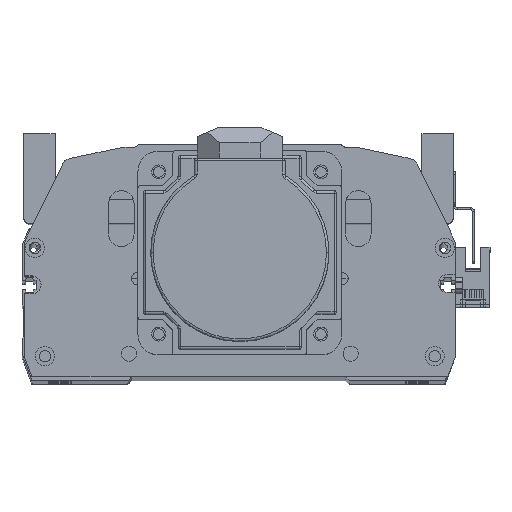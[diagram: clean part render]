
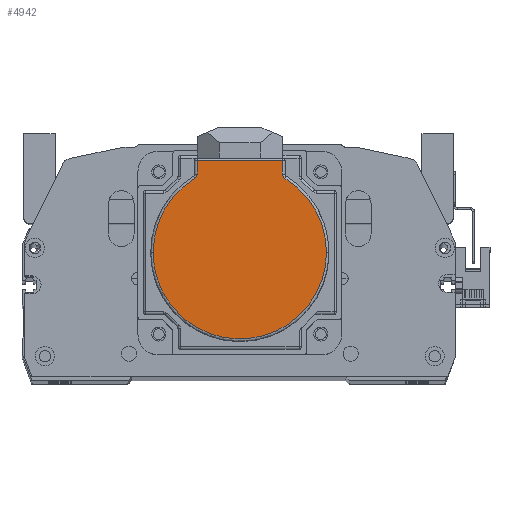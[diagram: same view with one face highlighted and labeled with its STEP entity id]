
A CAD part, top view. The second image highlights one B-rep face of the part: STEP entity #4942.
In plain terms, the highlighted planar face has unit normal (0, 0, 1) as drawn and (0, 0, -1) by its records, which use the part's own axes.
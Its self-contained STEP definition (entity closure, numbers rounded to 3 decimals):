
#281 = CARTESIAN_POINT ( 'NONE',  ( 34., 0., -143.5 ) ) ;
#3046 = CARTESIAN_POINT ( 'NONE',  ( -16.836, 30.15, -143.5 ) ) ;
#3869 = CARTESIAN_POINT ( 'NONE',  ( 16.75, 30.647, -143.5 ) ) ;
#4142 = ORIENTED_EDGE ( 'NONE', *, *, #12443, .F. ) ;
#4942 = ADVANCED_FACE ( 'NONE', ( #46643 ), #28446, .T. ) ;
#5293 = VERTEX_POINT ( 'NONE', #17669 ) ;
#5727 =( BOUNDED_CURVE ( )  B_SPLINE_CURVE ( 3, ( #32121, #6694, #21308, #46227 ),
 .UNSPECIFIED., .F., .T. ) 
 B_SPLINE_CURVE_WITH_KNOTS ( ( 4, 4 ),
 ( 0., 1. ),
 .UNSPECIFIED. ) 
 CURVE ( )  GEOMETRIC_REPRESENTATION_ITEM ( )  RATIONAL_B_SPLINE_CURVE ( ( 1., 0.915, 0.915, 1. ) ) 
 REPRESENTATION_ITEM ( '' )  );
#6533 = CARTESIAN_POINT ( 'NONE',  ( 17.119, 29.568, -143.5 ) ) ;
#6628 = CARTESIAN_POINT ( 'NONE',  ( -16.863, 30.068, -143.5 ) ) ;
#6694 = CARTESIAN_POINT ( 'NONE',  ( -28.063, 22.707, -143.5 ) ) ;
#6863 = CARTESIAN_POINT ( 'NONE',  ( -17.195, 29.462, -143.5 ) ) ;
#7009 = CARTESIAN_POINT ( 'NONE',  ( 17.708, 29.024, -143.5 ) ) ;
#7183 = CARTESIAN_POINT ( 'NONE',  ( 34., 12.13, -143.5 ) ) ;
#7232 = CARTESIAN_POINT ( 'NONE',  ( 17.564, 29.113, -143.5 ) ) ;
#7488 = B_SPLINE_CURVE_WITH_KNOTS ( 'NONE', 3,
 ( #27978, #39017, #9761, #35892, #13809, #32060, #6863, #24385, #28462, #39489, #6628, #3046, #16704, #28691, #17654, #32298 ),
 .UNSPECIFIED., .F., .F.,
 ( 4, 1, 2, 2, 2, 1, 2, 2, 4 ),
 ( 0., 0.125, 0.187, 0.25, 0.5, 0.625, 0.687, 0.75, 1. ),
 .UNSPECIFIED. ) ;
#7951 = VERTEX_POINT ( 'NONE', #42199 ) ;
#9761 = CARTESIAN_POINT ( 'NONE',  ( -17.533, 29.14, -143.5 ) ) ;
#10624 = CARTESIAN_POINT ( 'NONE',  ( 16.758, 30.522, -143.5 ) ) ;
#10926 =( BOUNDED_CURVE ( )  B_SPLINE_CURVE ( 3, ( #14447, #7183, #39339, #31911 ),
 .UNSPECIFIED., .F., .F. ) 
 B_SPLINE_CURVE_WITH_KNOTS ( ( 4, 4 ),
 ( 0., 1. ),
 .UNSPECIFIED. ) 
 CURVE ( )  GEOMETRIC_REPRESENTATION_ITEM ( )  RATIONAL_B_SPLINE_CURVE ( ( 1., 0.915, 0.915, 1. ) ) 
 REPRESENTATION_ITEM ( '' )  );
#11080 = CARTESIAN_POINT ( 'NONE',  ( 17.2, 29.467, -143.5 ) ) ;
#12443 = EDGE_CURVE ( 'NONE', #35800, #5293, #21722, .T. ) ;
#12704 = VECTOR ( 'NONE', #25352, 1000. ) ;
#12809 = LINE ( 'NONE', #27450, #27426 ) ;
#13174 = ORIENTED_EDGE ( 'NONE', *, *, #26693, .T. ) ;
#13685 =( BOUNDED_CURVE ( )  B_SPLINE_CURVE ( 3, ( #15123, #38344, #29780, #281 ),
 .UNSPECIFIED., .F., .F. ) 
 B_SPLINE_CURVE_WITH_KNOTS ( ( 4, 4 ),
 ( 0., 1. ),
 .UNSPECIFIED. ) 
 CURVE ( )  GEOMETRIC_REPRESENTATION_ITEM ( )  RATIONAL_B_SPLINE_CURVE ( ( 1., 0.333, 0.333, 1. ) ) 
 REPRESENTATION_ITEM ( '' )  );
#13809 = CARTESIAN_POINT ( 'NONE',  ( -17.376, 29.278, -143.5 ) ) ;
#14412 = ORIENTED_EDGE ( 'NONE', *, *, #25136, .T. ) ;
#14447 = CARTESIAN_POINT ( 'NONE',  ( 34., 0., -143.5 ) ) ;
#15123 = CARTESIAN_POINT ( 'NONE',  ( -34., 0., -143.5 ) ) ;
#15877 = CARTESIAN_POINT ( 'NONE',  ( 34., 0., -143.5 ) ) ;
#16123 = EDGE_CURVE ( 'NONE', #23050, #43658, #5727, .T. ) ;
#16704 = CARTESIAN_POINT ( 'NONE',  ( -16.823, 30.193, -143.5 ) ) ;
#16987 = LINE ( 'NONE', #35223, #27912 ) ;
#17654 = CARTESIAN_POINT ( 'NONE',  ( -16.75, 30.563, -143.5 ) ) ;
#17669 = CARTESIAN_POINT ( 'NONE',  ( 16.75, 36., -143.5 ) ) ;
#17801 = CARTESIAN_POINT ( 'NONE',  ( 16.793, 30.316, -143.5 ) ) ;
#18618 = CARTESIAN_POINT ( 'NONE',  ( -16.75, 30.732, -143.5 ) ) ;
#20696 = CARTESIAN_POINT ( 'NONE',  ( 16.75, 30.732, -143.5 ) ) ;
#21147 = CARTESIAN_POINT ( 'NONE',  ( 17.433, 29.217, -143.5 ) ) ;
#21308 = CARTESIAN_POINT ( 'NONE',  ( -34., 12.13, -143.5 ) ) ;
#21620 = CARTESIAN_POINT ( 'NONE',  ( 17.287, 29.367, -143.5 ) ) ;
#21722 = LINE ( 'NONE', #35663, #12704 ) ;
#23048 = VERTEX_POINT ( 'NONE', #15877 ) ;
#23050 = VERTEX_POINT ( 'NONE', #42750 ) ;
#23684 = ORIENTED_EDGE ( 'NONE', *, *, #16123, .F. ) ;
#24385 = CARTESIAN_POINT ( 'NONE',  ( -17.091, 29.601, -143.5 ) ) ;
#25136 = EDGE_CURVE ( 'NONE', #27058, #5293, #16987, .T. ) ;
#25352 = DIRECTION ( 'NONE',  ( 0., 1., 0. ) ) ;
#26082 = CARTESIAN_POINT ( 'NONE',  ( -16.75, 36., -143.5 ) ) ;
#26693 = EDGE_CURVE ( 'NONE', #23050, #42432, #7488, .T. ) ;
#26833 = EDGE_LOOP ( 'NONE', ( #43730, #23684, #13174, #33074, #14412, #4142, #40973, #37804 ) ) ;
#27058 = VERTEX_POINT ( 'NONE', #26082 ) ;
#27330 = EDGE_CURVE ( 'NONE', #35800, #7951, #41205, .T. ) ;
#27426 = VECTOR ( 'NONE', #42061, 1000. ) ;
#27450 = CARTESIAN_POINT ( 'NONE',  ( -16.75, 0., -143.5 ) ) ;
#27771 = EDGE_CURVE ( 'NONE', #23048, #7951, #10926, .T. ) ;
#27912 = VECTOR ( 'NONE', #31633, 1000. ) ;
#27978 = CARTESIAN_POINT ( 'NONE',  ( -17.708, 29.024, -143.5 ) ) ;
#28446 = PLANE ( 'NONE',  #45055 ) ;
#28462 = CARTESIAN_POINT ( 'NONE',  ( -16.963, 29.829, -143.5 ) ) ;
#28691 = CARTESIAN_POINT ( 'NONE',  ( -16.771, 30.397, -143.5 ) ) ;
#29780 = CARTESIAN_POINT ( 'NONE',  ( 34., -68., -143.5 ) ) ;
#31633 = DIRECTION ( 'NONE',  ( 1., 0., 0. ) ) ;
#31911 = CARTESIAN_POINT ( 'NONE',  ( 17.708, 29.024, -143.5 ) ) ;
#32060 = CARTESIAN_POINT ( 'NONE',  ( -17.347, 29.306, -143.5 ) ) ;
#32121 = CARTESIAN_POINT ( 'NONE',  ( -17.708, 29.024, -143.5 ) ) ;
#32298 = CARTESIAN_POINT ( 'NONE',  ( -16.75, 30.732, -143.5 ) ) ;
#33074 = ORIENTED_EDGE ( 'NONE', *, *, #37873, .F. ) ;
#35223 = CARTESIAN_POINT ( 'NONE',  ( 0., 36., -143.5 ) ) ;
#35663 = CARTESIAN_POINT ( 'NONE',  ( 16.75, 0., -143.5 ) ) ;
#35800 = VERTEX_POINT ( 'NONE', #20696 ) ;
#35892 = CARTESIAN_POINT ( 'NONE',  ( -17.438, 29.222, -143.5 ) ) ;
#36271 = CARTESIAN_POINT ( 'NONE',  ( 16.778, 30.398, -143.5 ) ) ;
#36500 = CARTESIAN_POINT ( 'NONE',  ( 16.75, 30.732, -143.5 ) ) ;
#37804 = ORIENTED_EDGE ( 'NONE', *, *, #27771, .F. ) ;
#37873 = EDGE_CURVE ( 'NONE', #27058, #42432, #12809, .T. ) ;
#38344 = CARTESIAN_POINT ( 'NONE',  ( -34., -68., -143.5 ) ) ;
#39017 = CARTESIAN_POINT ( 'NONE',  ( -17.636, 29.068, -143.5 ) ) ;
#39339 = CARTESIAN_POINT ( 'NONE',  ( 28.063, 22.707, -143.5 ) ) ;
#39392 = CARTESIAN_POINT ( 'NONE',  ( 16.921, 29.904, -143.5 ) ) ;
#39489 = CARTESIAN_POINT ( 'NONE',  ( -16.907, 29.946, -143.5 ) ) ;
#39945 = CARTESIAN_POINT ( 'NONE',  ( 0., 0., -143.5 ) ) ;
#40973 = ORIENTED_EDGE ( 'NONE', *, *, #27330, .T. ) ;
#40985 = CARTESIAN_POINT ( 'NONE',  ( -34., 0., -143.5 ) ) ;
#41205 = B_SPLINE_CURVE_WITH_KNOTS ( 'NONE', 3,
 ( #36500, #3869, #10624, #36271, #17801, #43660, #47267, #39392, #43196, #6533, #11080, #42967, #21620, #21147, #7232, #7009 ),
 .UNSPECIFIED., .F., .F.,
 ( 4, 1, 2, 2, 2, 1, 2, 2, 4 ),
 ( 0., 0.125, 0.188, 0.25, 0.5, 0.625, 0.687, 0.75, 1. ),
 .UNSPECIFIED. ) ;
#42061 = DIRECTION ( 'NONE',  ( 0., -1., 0. ) ) ;
#42105 = EDGE_CURVE ( 'NONE', #43658, #23048, #13685, .T. ) ;
#42199 = CARTESIAN_POINT ( 'NONE',  ( 17.708, 29.024, -143.5 ) ) ;
#42432 = VERTEX_POINT ( 'NONE', #18618 ) ;
#42750 = CARTESIAN_POINT ( 'NONE',  ( -17.708, 29.024, -143.5 ) ) ;
#42967 = CARTESIAN_POINT ( 'NONE',  ( 17.257, 29.401, -143.5 ) ) ;
#43046 = DIRECTION ( 'NONE',  ( 0., 0., -1. ) ) ;
#43196 = CARTESIAN_POINT ( 'NONE',  ( 17.049, 29.677, -143.5 ) ) ;
#43658 = VERTEX_POINT ( 'NONE', #40985 ) ;
#43660 = CARTESIAN_POINT ( 'NONE',  ( 16.802, 30.276, -143.5 ) ) ;
#43730 = ORIENTED_EDGE ( 'NONE', *, *, #42105, .F. ) ;
#45055 = AXIS2_PLACEMENT_3D ( 'NONE', #39945, #43046, #46880 ) ;
#46227 = CARTESIAN_POINT ( 'NONE',  ( -34., 0., -143.5 ) ) ;
#46643 = FACE_OUTER_BOUND ( 'NONE', #26833, .T. ) ;
#46880 = DIRECTION ( 'NONE',  ( -1., 0., 0. ) ) ;
#47267 = CARTESIAN_POINT ( 'NONE',  ( 16.856, 30.065, -143.5 ) ) ;
